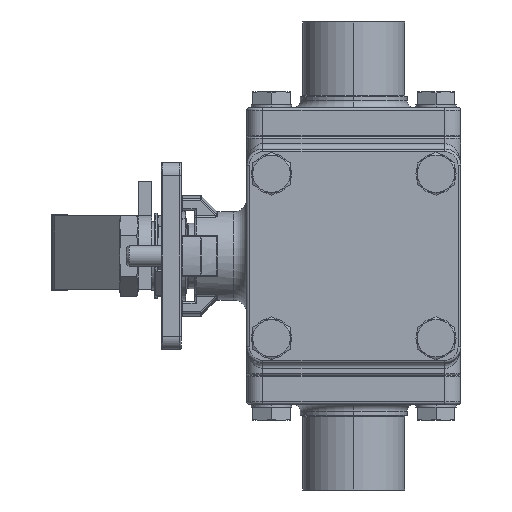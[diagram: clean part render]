
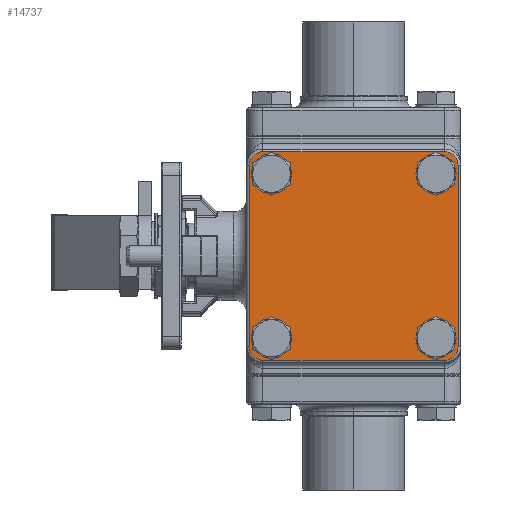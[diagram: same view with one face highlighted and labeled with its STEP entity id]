
A CAD part, left-side view. The second image highlights one B-rep face of the part: STEP entity #14737.
In plain terms, the highlighted planar face has unit normal (-1, 0, 0) as drawn and (0, 0, 1) by its records, which use the part's own axes.
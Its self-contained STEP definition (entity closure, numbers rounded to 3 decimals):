
#210 = VERTEX_POINT ( 'NONE', #2464 ) ;
#587 = EDGE_CURVE ( 'NONE', #29611, #13509, #12142, .T. ) ;
#1456 = EDGE_CURVE ( 'NONE', #15930, #21536, #17777, .T. ) ;
#1627 = CARTESIAN_POINT ( 'NONE',  ( 34., 34., 7. ) ) ;
#1664 = ORIENTED_EDGE ( 'NONE', *, *, #587, .F. ) ;
#1853 = AXIS2_PLACEMENT_3D ( 'NONE', #6488, #19251, #19357 ) ;
#2127 = DIRECTION ( 'NONE',  ( 0., 0., 1. ) ) ;
#2333 = VERTEX_POINT ( 'NONE', #27619 ) ;
#2384 = CARTESIAN_POINT ( 'NONE',  ( 30.759, 30.759, 7. ) ) ;
#2464 = CARTESIAN_POINT ( 'NONE',  ( 34., 39., 7. ) ) ;
#2849 = CIRCLE ( 'NONE', #2919, 5.25 ) ;
#2919 = AXIS2_PLACEMENT_3D ( 'NONE', #32785, #2127, #30438 ) ;
#3031 = CIRCLE ( 'NONE', #19242, 5. ) ;
#3124 = CARTESIAN_POINT ( 'NONE',  ( -30.759, 30.759, 7. ) ) ;
#3126 = EDGE_CURVE ( 'NONE', #21536, #15930, #2849, .T. ) ;
#3716 = EDGE_CURVE ( 'NONE', #13844, #2333, #31210, .T. ) ;
#4096 = DIRECTION ( 'NONE',  ( 1., 0., 0. ) ) ;
#4840 = CIRCLE ( 'NONE', #5368, 5.25 ) ;
#4953 = AXIS2_PLACEMENT_3D ( 'NONE', #18789, #23752, #20919 ) ;
#5051 = VECTOR ( 'NONE', #26723, 1000. ) ;
#5306 = CARTESIAN_POINT ( 'NONE',  ( 39., 34., 7. ) ) ;
#5368 = AXIS2_PLACEMENT_3D ( 'NONE', #25816, #20639, #30950 ) ;
#5569 = VERTEX_POINT ( 'NONE', #9569 ) ;
#5590 = CARTESIAN_POINT ( 'NONE',  ( -25.509, -30.759, 7. ) ) ;
#5976 = CIRCLE ( 'NONE', #23197, 5.25 ) ;
#6326 = CARTESIAN_POINT ( 'NONE',  ( -34., 39., 7. ) ) ;
#6488 = CARTESIAN_POINT ( 'NONE',  ( -34., -34., 7. ) ) ;
#7008 = EDGE_LOOP ( 'NONE', ( #1664, #26290 ) ) ;
#7870 = ORIENTED_EDGE ( 'NONE', *, *, #21949, .T. ) ;
#8122 = EDGE_LOOP ( 'NONE', ( #13367, #28409 ) ) ;
#8234 = LINE ( 'NONE', #6326, #5051 ) ;
#8861 = LINE ( 'NONE', #19345, #32906 ) ;
#8973 = FACE_OUTER_BOUND ( 'NONE', #19490, .T. ) ;
#9044 = VERTEX_POINT ( 'NONE', #21382 ) ;
#9150 = DIRECTION ( 'NONE',  ( 1., 0., 0. ) ) ;
#9180 = EDGE_CURVE ( 'NONE', #13509, #29611, #5976, .T. ) ;
#9469 = VERTEX_POINT ( 'NONE', #18782 ) ;
#9569 = CARTESIAN_POINT ( 'NONE',  ( -25.509, 30.759, 7. ) ) ;
#10131 = DIRECTION ( 'NONE',  ( 1., 0., 0. ) ) ;
#10159 = DIRECTION ( 'NONE',  ( 0., 0., 1. ) ) ;
#10464 = CARTESIAN_POINT ( 'NONE',  ( -39., -34., 7. ) ) ;
#10573 = DIRECTION ( 'NONE',  ( 1., 0., 0. ) ) ;
#10669 = AXIS2_PLACEMENT_3D ( 'NONE', #30780, #10159, #10573 ) ;
#11624 = VERTEX_POINT ( 'NONE', #27352 ) ;
#11695 = DIRECTION ( 'NONE',  ( 0., 0., 1. ) ) ;
#12142 = CIRCLE ( 'NONE', #13469, 5.25 ) ;
#12714 = EDGE_CURVE ( 'NONE', #30387, #13844, #3031, .T. ) ;
#13367 = ORIENTED_EDGE ( 'NONE', *, *, #29455, .F. ) ;
#13416 = ORIENTED_EDGE ( 'NONE', *, *, #3716, .T. ) ;
#13469 = AXIS2_PLACEMENT_3D ( 'NONE', #29832, #24916, #14571 ) ;
#13508 = EDGE_CURVE ( 'NONE', #2333, #210, #26213, .T. ) ;
#13509 = VERTEX_POINT ( 'NONE', #29495 ) ;
#13779 = CARTESIAN_POINT ( 'NONE',  ( -34., 39., 7. ) ) ;
#13844 = VERTEX_POINT ( 'NONE', #28910 ) ;
#14031 = ORIENTED_EDGE ( 'NONE', *, *, #13508, .T. ) ;
#14138 = DIRECTION ( 'NONE',  ( 1., 0., 0. ) ) ;
#14218 = DIRECTION ( 'NONE',  ( 0., 0., 1. ) ) ;
#14334 = EDGE_CURVE ( 'NONE', #5569, #9469, #16208, .T. ) ;
#14571 = DIRECTION ( 'NONE',  ( 1., 0., 0. ) ) ;
#14737 = ADVANCED_FACE ( 'NONE', ( #8973, #27824, #20985, #29843, #23046 ), #26625, .T. ) ;
#14739 = CARTESIAN_POINT ( 'NONE',  ( -36.009, -30.759, 7. ) ) ;
#14860 = CARTESIAN_POINT ( 'NONE',  ( 25.509, 30.759, 7. ) ) ;
#14915 = AXIS2_PLACEMENT_3D ( 'NONE', #31143, #26121, #15785 ) ;
#15785 = DIRECTION ( 'NONE',  ( 1., 0., 0. ) ) ;
#15863 = CARTESIAN_POINT ( 'NONE',  ( 36.009, -30.759, 7. ) ) ;
#15930 = VERTEX_POINT ( 'NONE', #5590 ) ;
#15976 = VECTOR ( 'NONE', #28266, 1000. ) ;
#16208 = CIRCLE ( 'NONE', #10669, 5.25 ) ;
#16678 = DIRECTION ( 'NONE',  ( 1., 0., 0. ) ) ;
#16980 = AXIS2_PLACEMENT_3D ( 'NONE', #3124, #25503, #10131 ) ;
#17493 = EDGE_LOOP ( 'NONE', ( #18217, #25915 ) ) ;
#17777 = CIRCLE ( 'NONE', #4953, 5.25 ) ;
#18026 = CARTESIAN_POINT ( 'NONE',  ( 25.509, -30.759, 7. ) ) ;
#18217 = ORIENTED_EDGE ( 'NONE', *, *, #3126, .F. ) ;
#18782 = CARTESIAN_POINT ( 'NONE',  ( -36.009, 30.759, 7. ) ) ;
#18789 = CARTESIAN_POINT ( 'NONE',  ( -30.759, -30.759, 7. ) ) ;
#18875 = CARTESIAN_POINT ( 'NONE',  ( 34., -34., 7. ) ) ;
#19129 = CIRCLE ( 'NONE', #16980, 5.25 ) ;
#19242 = AXIS2_PLACEMENT_3D ( 'NONE', #29656, #11695, #9150 ) ;
#19251 = DIRECTION ( 'NONE',  ( 0., 0., 1. ) ) ;
#19312 = VERTEX_POINT ( 'NONE', #13779 ) ;
#19345 = CARTESIAN_POINT ( 'NONE',  ( -39., -34., 7. ) ) ;
#19357 = DIRECTION ( 'NONE',  ( 1., 0., 0. ) ) ;
#19411 = CARTESIAN_POINT ( 'NONE',  ( 34., -39., 7. ) ) ;
#19490 = EDGE_LOOP ( 'NONE', ( #13416, #14031, #7870, #25630, #30032, #23767, #21405, #32356 ) ) ;
#19585 = CARTESIAN_POINT ( 'NONE',  ( 30.759, -30.759, 7. ) ) ;
#19685 = DIRECTION ( 'NONE',  ( 0., -1., 0. ) ) ;
#19846 = CIRCLE ( 'NONE', #1853, 5. ) ;
#19940 = DIRECTION ( 'NONE',  ( 1., 0., 0. ) ) ;
#20639 = DIRECTION ( 'NONE',  ( 0., 0., 1. ) ) ;
#20682 = EDGE_CURVE ( 'NONE', #19312, #9044, #26741, .T. ) ;
#20919 = DIRECTION ( 'NONE',  ( 1., 0., 0. ) ) ;
#20985 = FACE_BOUND ( 'NONE', #7008, .T. ) ;
#21382 = CARTESIAN_POINT ( 'NONE',  ( -39., 34., 7. ) ) ;
#21405 = ORIENTED_EDGE ( 'NONE', *, *, #22140, .T. ) ;
#21536 = VERTEX_POINT ( 'NONE', #14739 ) ;
#21949 = EDGE_CURVE ( 'NONE', #210, #19312, #8234, .T. ) ;
#22140 = EDGE_CURVE ( 'NONE', #11624, #30387, #28654, .T. ) ;
#22522 = DIRECTION ( 'NONE',  ( 0., 0., 1. ) ) ;
#23046 = FACE_BOUND ( 'NONE', #30875, .T. ) ;
#23070 = CIRCLE ( 'NONE', #25446, 5.25 ) ;
#23197 = AXIS2_PLACEMENT_3D ( 'NONE', #2384, #22522, #19940 ) ;
#23752 = DIRECTION ( 'NONE',  ( 0., 0., 1. ) ) ;
#23767 = ORIENTED_EDGE ( 'NONE', *, *, #29379, .T. ) ;
#24882 = EDGE_CURVE ( 'NONE', #9044, #28832, #8861, .T. ) ;
#24916 = DIRECTION ( 'NONE',  ( 0., 0., 1. ) ) ;
#25193 = ORIENTED_EDGE ( 'NONE', *, *, #27476, .F. ) ;
#25446 = AXIS2_PLACEMENT_3D ( 'NONE', #19585, #31911, #16678 ) ;
#25470 = EDGE_CURVE ( 'NONE', #27010, #26057, #4840, .T. ) ;
#25503 = DIRECTION ( 'NONE',  ( 0., 0., 1. ) ) ;
#25630 = ORIENTED_EDGE ( 'NONE', *, *, #20682, .T. ) ;
#25634 = ORIENTED_EDGE ( 'NONE', *, *, #14334, .F. ) ;
#25816 = CARTESIAN_POINT ( 'NONE',  ( 30.759, -30.759, 7. ) ) ;
#25867 = VECTOR ( 'NONE', #4096, 1000. ) ;
#25915 = ORIENTED_EDGE ( 'NONE', *, *, #1456, .F. ) ;
#26057 = VERTEX_POINT ( 'NONE', #18026 ) ;
#26121 = DIRECTION ( 'NONE',  ( 0., 0., 1. ) ) ;
#26213 = CIRCLE ( 'NONE', #28723, 5. ) ;
#26290 = ORIENTED_EDGE ( 'NONE', *, *, #9180, .F. ) ;
#26625 = PLANE ( 'NONE',  #32841 ) ;
#26696 = CARTESIAN_POINT ( 'NONE',  ( 34., -39., 7. ) ) ;
#26723 = DIRECTION ( 'NONE',  ( -1., 0., 0. ) ) ;
#26741 = CIRCLE ( 'NONE', #14915, 5. ) ;
#26965 = DIRECTION ( 'NONE',  ( 0., 0., 1. ) ) ;
#27010 = VERTEX_POINT ( 'NONE', #15863 ) ;
#27352 = CARTESIAN_POINT ( 'NONE',  ( -34., -39., 7. ) ) ;
#27476 = EDGE_CURVE ( 'NONE', #9469, #5569, #19129, .T. ) ;
#27619 = CARTESIAN_POINT ( 'NONE',  ( 39., 34., 7. ) ) ;
#27824 = FACE_BOUND ( 'NONE', #17493, .T. ) ;
#28266 = DIRECTION ( 'NONE',  ( 0., 1., 0. ) ) ;
#28409 = ORIENTED_EDGE ( 'NONE', *, *, #25470, .F. ) ;
#28654 = LINE ( 'NONE', #19411, #25867 ) ;
#28723 = AXIS2_PLACEMENT_3D ( 'NONE', #1627, #14218, #32398 ) ;
#28832 = VERTEX_POINT ( 'NONE', #10464 ) ;
#28910 = CARTESIAN_POINT ( 'NONE',  ( 39., -34., 7. ) ) ;
#29379 = EDGE_CURVE ( 'NONE', #28832, #11624, #19846, .T. ) ;
#29455 = EDGE_CURVE ( 'NONE', #26057, #27010, #23070, .T. ) ;
#29495 = CARTESIAN_POINT ( 'NONE',  ( 36.009, 30.759, 7. ) ) ;
#29611 = VERTEX_POINT ( 'NONE', #14860 ) ;
#29656 = CARTESIAN_POINT ( 'NONE',  ( 34., -34., 7. ) ) ;
#29832 = CARTESIAN_POINT ( 'NONE',  ( 30.759, 30.759, 7. ) ) ;
#29843 = FACE_BOUND ( 'NONE', #8122, .T. ) ;
#30032 = ORIENTED_EDGE ( 'NONE', *, *, #24882, .T. ) ;
#30387 = VERTEX_POINT ( 'NONE', #26696 ) ;
#30438 = DIRECTION ( 'NONE',  ( 1., 0., 0. ) ) ;
#30780 = CARTESIAN_POINT ( 'NONE',  ( -30.759, 30.759, 7. ) ) ;
#30875 = EDGE_LOOP ( 'NONE', ( #25193, #25634 ) ) ;
#30950 = DIRECTION ( 'NONE',  ( 1., 0., 0. ) ) ;
#31143 = CARTESIAN_POINT ( 'NONE',  ( -34., 34., 7. ) ) ;
#31210 = LINE ( 'NONE', #5306, #15976 ) ;
#31911 = DIRECTION ( 'NONE',  ( 0., 0., 1. ) ) ;
#32356 = ORIENTED_EDGE ( 'NONE', *, *, #12714, .T. ) ;
#32398 = DIRECTION ( 'NONE',  ( 1., 0., 0. ) ) ;
#32785 = CARTESIAN_POINT ( 'NONE',  ( -30.759, -30.759, 7. ) ) ;
#32841 = AXIS2_PLACEMENT_3D ( 'NONE', #18875, #26965, #14138 ) ;
#32906 = VECTOR ( 'NONE', #19685, 1000. ) ;
